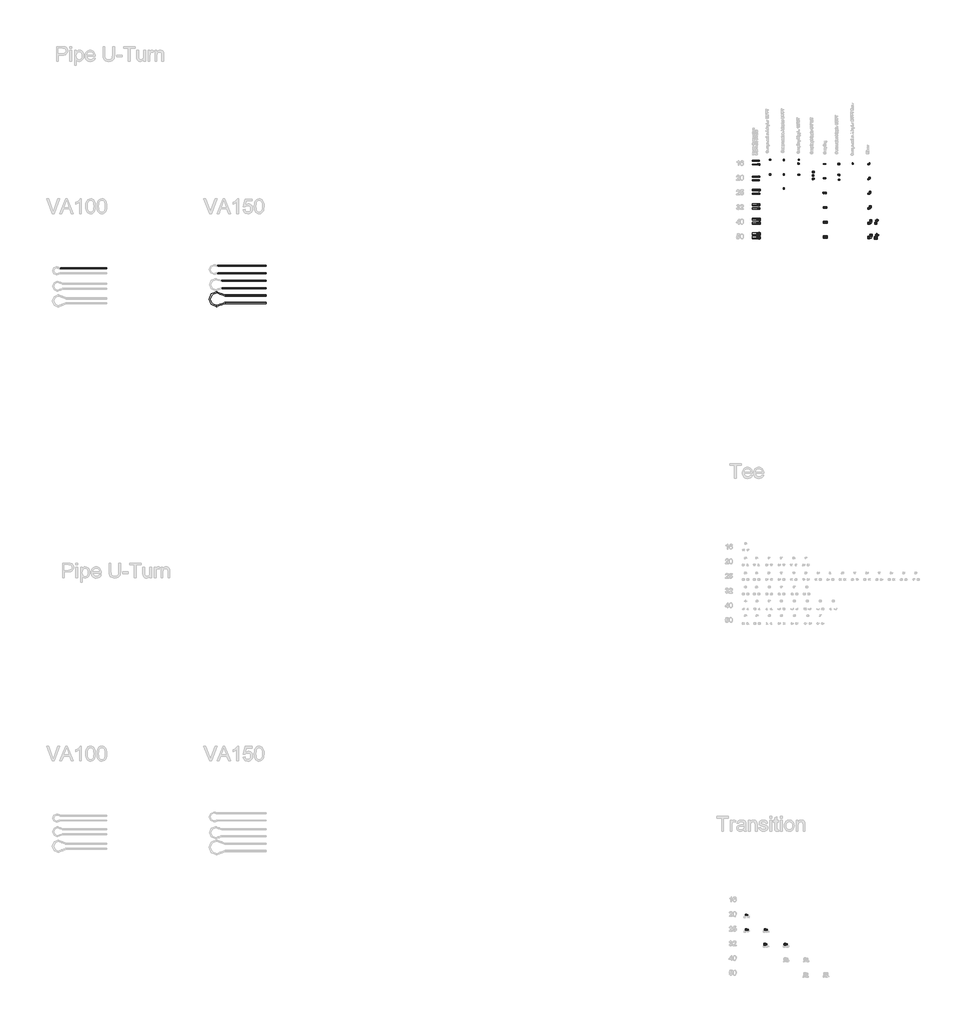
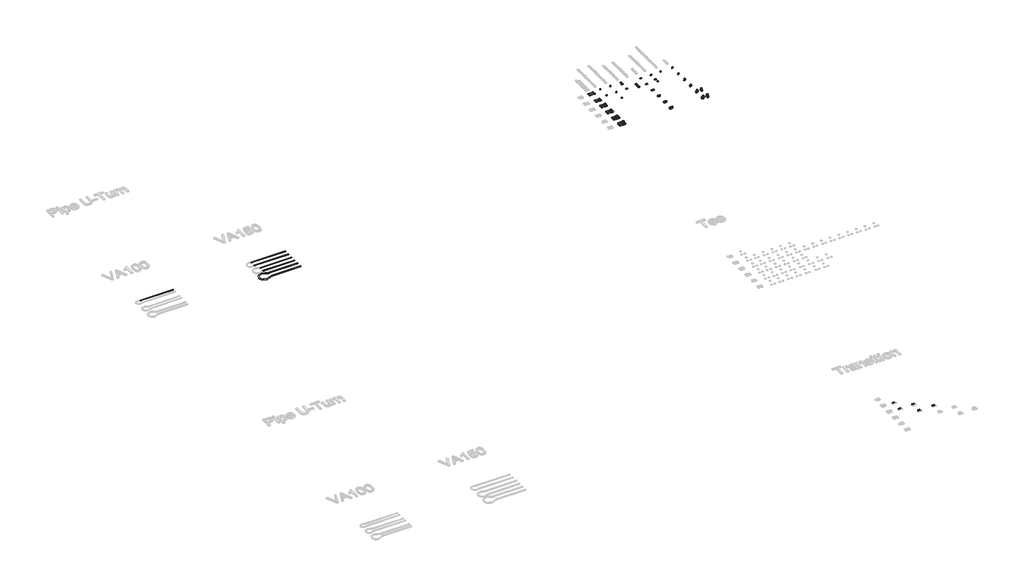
# One storey, part 6 of 26: 53 pipe fittings, 19 pipe segments.
"""IFC4 building model written with IfcOpenShell, lengths in millimetres."""

from ifc_helpers import new_model, si_unit, point, frame, frame_2d, origin, place, context, project, spatial, circle_curve, trimmed, segment, composite_curve, outline, extrude, transform, mapped, element, save
from components import pipe_fitting_8efa302d, pipe_fitting_62024e3c, pipe_fitting_687f7d2e, pipe_fitting_230b2432, pipe_fitting_fd43bd29, pipe_fitting_a4cde8ab, pipe_fitting_2b9a29ce, pipe_fitting_d8af90f1, pipe_fitting_2b53eb9e, pipe_fitting_8ddd92a3, press_connection_with_male_thread_3b10f8af, press_connection_with_male_thread_36fd35f1, press_connection_with_male_thread_b05d8531, press_connection_with_male_thread_6ec6f002, press_connection_with_male_thread_6ada2280, press_connection_with_male_thread_5719c467, press_connection_with_male_thread_fee0158b, press_connection_with_male_thread_74f2f24a, press_connection_with_male_thread_ee4fe83c, press_connection_with_male_thread_8bc9dd04, press_connection_with_male_thread_86ed2f91, press_connection_with_male_thread_667abdb5, press_coupling_33d5531b, press_coupling_d68e36af, press_coupling_43f2d661, press_coupling_09caa11f, press_coupling_af6aac93, press_coupling_7d98de0b, press_elbow_9b0d0ad5, press_elbow_2132446e, press_elbow_a54f810e, press_elbow_edc2ccf9, press_elbow_ccdfa179, press_elbow_f3a7adda, press_elbow_fd1b3582, press_elbow_8b702b1f, press_reducer_d6b01df5, press_reducer_475ca5cc, press_reducer_23957c26, press_reducer_061486a4, press_reducer_fd3fb0bc, ufh_curved_u_turn_771e7ece

model = new_model("IFC4")

# Units and contexts
model_context = context("Model", 3, world=origin())
ifc_project = project(units=[si_unit("LENGTHUNIT", "METRE", prefix="MILLI")], contexts=[model_context])

# Site, building, storey
site = spatial("IfcSite", under=ifc_project)
building = spatial("IfcBuilding", under=site)
storey = spatial("IfcBuildingStorey", under=building, Name="Superpipe UFH", Elevation=0.0)

# Pipe fittings
placement = place(None, origin())
pipe_fitting_shape = pipe_fitting_8efa302d(model_context)
element("IfcPipeFitting", 1, ObjectType="Coupling Nipple 1/2\"MT : Superpipe Coupling Nipple - 1/2\"MT-1/2\"MT", at=placement, inside=storey, context=model_context, shape_type="MappedRepresentation", body=[
    mapped(pipe_fitting_shape, transform((26673.0968487, 32287.6440302, 0.0), x_axis=(1.0, 0.0, 0.0), y_axis=(0.0, 1.0, 0.0), z_axis=(0.0, 0.0, 1.0))),
])
pipe_fitting_2_shape = pipe_fitting_62024e3c(model_context)
element("IfcPipeFitting", 2, ObjectType="Coupling Nipple 3/4\"MT : Superpipe Coupling Nipple - 3/4\"MT-3/4\"MT", at=placement, inside=storey, context=model_context, shape_type="MappedRepresentation", body=[
    mapped(pipe_fitting_2_shape, transform((26966.608744, 31970.4995621, 0.0), x_axis=(1.0, 0.0, 0.0), y_axis=(0.0, 1.0, 0.0), z_axis=(0.0, 0.0, 1.0))),
])
element("IfcPipeFitting", 3, ObjectType="Coupling Nipple 1/2\"MT : Superpipe Coupling Nipple - 16-1/2\"MT", at=placement, inside=storey, context=model_context, shape_type="MappedRepresentation", body=[
    mapped(pipe_fitting_shape, transform((26673.0968487, 32211.3878978, 0.0), x_axis=(1.0, 0.0, 0.0), y_axis=(0.0, 0.0, -1.0), z_axis=(0.0, 1.0, 0.0))),
])
element("IfcPipeFitting", 4, ObjectType="Coupling Nipple 1/2\"MT : Superpipe Coupling Nipple - 20-1/2\"MT", at=placement, inside=storey, context=model_context, shape_type="MappedRepresentation", body=[
    mapped(pipe_fitting_shape, transform((26681.2950323, 31984.1978398, 0.0), x_axis=(1.0, 0.0, 0.0), y_axis=(0.0, 1.0, 0.0), z_axis=(0.0, 0.0, 1.0))),
])
element("IfcPipeFitting", 5, ObjectType="Coupling Nipple 3/4\"MT : Superpipe Coupling Nipple - 16-3/4\"MT", at=placement, inside=storey, context=model_context, shape_type="MappedRepresentation", body=[
    mapped(pipe_fitting_2_shape, transform((26974.711052, 32039.5133921, 0.0), x_axis=(1.0, 0.0, 0.0), y_axis=(0.0, 1.0, 0.0), z_axis=(0.0, 0.0, 1.0))),
])
element("IfcPipeFitting", 6, ObjectType="Coupling Nipple 3/4\"MT : Superpipe Coupling Nipple - 20-3/4\"MT", at=placement, inside=storey, context=model_context, shape_type="MappedRepresentation", body=[
    mapped(pipe_fitting_2_shape, transform((26973.8036119, 31901.4917886, 0.0), x_axis=(1.0, 0.0, 0.0), y_axis=(0.0, 1.0, 0.0), z_axis=(0.0, 0.0, 1.0))),
])
pipe_fitting_3_shape = pipe_fitting_687f7d2e(model_context)
element("IfcPipeFitting", 7, ObjectType="Conversion Nipple 1/2\"FT : Superpipe Conversion Nipple - 1/2\"MT -1/2\"FT", at=placement, inside=storey, context=model_context, shape_type="MappedRepresentation", body=[
    mapped(pipe_fitting_3_shape, transform((27501.0306015, 31881.747504, 0.0), x_axis=(1.0, 0.0, 0.0), y_axis=(0.0, 1.0, 0.0), z_axis=(0.0, 0.0, 1.0))),
])
element("IfcPipeFitting", 8, ObjectType="Conversion Nipple 1/2\"FT : Superpipe Conversion Nipple - 16-1/2\"FT", at=placement, inside=storey, context=model_context, shape_type="MappedRepresentation", body=[
    mapped(pipe_fitting_3_shape, transform((27500.3086244, 32203.9342523, 0.0), x_axis=(1.0, 0.0, 0.0), y_axis=(0.0, 1.0, 0.0), z_axis=(0.0, 0.0, 1.0))),
])
element("IfcPipeFitting", 9, ObjectType="Conversion Nipple 1/2\"FT : Superpipe Conversion Nipple - 20-1/2\"FT", at=placement, inside=storey, context=model_context, shape_type="MappedRepresentation", body=[
    mapped(pipe_fitting_3_shape, transform((27501.0306015, 31981.747504, 0.0), x_axis=(1.0, 0.0, 0.0), y_axis=(0.0, 1.0, 0.0), z_axis=(0.0, 0.0, 1.0))),
])
pipe_fitting_4_shape = pipe_fitting_230b2432(model_context)
element("IfcPipeFitting", 10, ObjectType="Compression Adapter 1/2\"FT : Superpipe Compression Adapter", at=placement, inside=storey, context=model_context, shape_type="MappedRepresentation", body=[
    mapped(pipe_fitting_4_shape, transform((26072.157662, 31987.6440302, 0.0), x_axis=(1.0, 0.0, 0.0), y_axis=(0.0, 1.0, 0.0), z_axis=(0.0, 0.0, 1.0))),
])
element("IfcPipeFitting", 11, ObjectType="Compression Adapter 1/2\"FT : Superpipe Compression Adapter", at=placement, inside=storey, context=model_context, shape_type="MappedRepresentation", body=[
    mapped(pipe_fitting_4_shape, transform((26648.2950323, 31984.1978398, 0.0), x_axis=(1.0, 0.0, 0.0), y_axis=(0.0, 1.0, 0.0), z_axis=(0.0, 0.0, 1.0))),
])
element("IfcPipeFitting", 12, ObjectType="Compression Adapter 1/2\"FT : Superpipe Compression Adapter", at=placement, inside=storey, context=model_context, shape_type="MappedRepresentation", body=[
    mapped(pipe_fitting_4_shape, transform((27465.7806015, 31981.747504, 0.0), x_axis=(1.0, 0.0, 0.0), y_axis=(0.0, 1.0, 0.0), z_axis=(0.0, 0.0, 1.0))),
])
pipe_fitting_5_shape = pipe_fitting_fd43bd29(model_context)
element("IfcPipeFitting", 13, ObjectType="Compression Adapter 1/2\"FT : Superpipe Compression Adapter", at=placement, inside=storey, context=model_context, shape_type="MappedRepresentation", body=[
    mapped(pipe_fitting_5_shape, transform((26072.157662, 32291.7931007, 0.0), x_axis=(1.0, 0.0, 0.0), y_axis=(0.0, 1.0, 0.0), z_axis=(0.0, 0.0, 1.0))),
])
element("IfcPipeFitting", 14, ObjectType="Compression Adapter 1/2\"FT : Superpipe Compression Adapter", at=placement, inside=storey, context=model_context, shape_type="MappedRepresentation", body=[
    mapped(pipe_fitting_5_shape, transform((26647.0968487, 32211.3878978, 0.0), x_axis=(1.0, 0.0, 0.0), y_axis=(0.0, 0.0, -1.0), z_axis=(0.0, 1.0, 0.0))),
])
element("IfcPipeFitting", 15, ObjectType="Compression Adapter 1/2\"FT : Superpipe Compression Adapter", at=placement, inside=storey, context=model_context, shape_type="MappedRepresentation", body=[
    mapped(pipe_fitting_5_shape, transform((27472.0586244, 32203.9342523, 0.0), x_axis=(1.0, 0.0, 0.0), y_axis=(0.0, 1.0, 0.0), z_axis=(0.0, 0.0, 1.0))),
])
pipe_fitting_6_shape = pipe_fitting_a4cde8ab(model_context)
element("IfcPipeFitting", 16, ObjectType="Compression Adapter 3/4\"FT : Superpipe Compression Adapter", at=placement, inside=storey, context=model_context, shape_type="MappedRepresentation", body=[
    mapped(pipe_fitting_6_shape, transform((26355.157662, 31987.6440302, 0.0), x_axis=(1.0, 0.0, 0.0), y_axis=(0.0, 1.0, 0.0), z_axis=(0.0, 0.0, 1.0))),
])
pipe_fitting_7_shape = pipe_fitting_2b9a29ce(model_context)
element("IfcPipeFitting", 17, ObjectType="Compression Adapter 3/4\"FT : Superpipe Compression Adapter", at=placement, inside=storey, context=model_context, shape_type="MappedRepresentation", body=[
    mapped(pipe_fitting_7_shape, transform((26355.157662, 31706.7931007, 0.0), x_axis=(1.0, 0.0, 0.0), y_axis=(0.0, 1.0, 0.0), z_axis=(0.0, 0.0, 1.0))),
])
pipe_fitting_8_shape = pipe_fitting_d8af90f1(model_context)
element("IfcPipeFitting", 18, ObjectType="Compression Adapter 3/4\"FT : Superpipe Compression Adapter", at=placement, inside=storey, context=model_context, shape_type="MappedRepresentation", body=[
    mapped(pipe_fitting_8_shape, transform((26358.167332, 32287.6440302, 0.0), x_axis=(1.0, 0.0, 0.0), y_axis=(0.0, 1.0, 0.0), z_axis=(0.0, 0.0, 1.0))),
])
pipe_fitting_9_shape = pipe_fitting_2b53eb9e(model_context)
element("IfcPipeFitting", 19, ObjectType="Compression Adapter 3/4\"FT : Superpipe Compression Adapter", at=placement, inside=storey, context=model_context, shape_type="MappedRepresentation", body=[
    mapped(pipe_fitting_9_shape, transform((26970.0278282, 32039.5133921, 0.0), x_axis=(-1.0, 0.0, 0.0), y_axis=(0.0, -1.0, 0.0), z_axis=(0.0, 0.0, 1.0))),
])
pipe_fitting_10_shape = pipe_fitting_8ddd92a3(model_context)
element("IfcPipeFitting", 20, ObjectType="Compression Adapter 3/4\"FT : Superpipe Compression Adapter", at=placement, inside=storey, context=model_context, shape_type="MappedRepresentation", body=[
    mapped(pipe_fitting_10_shape, transform((26969.120388, 31901.4917886, 0.0), x_axis=(-1.0, 0.0, 0.0), y_axis=(0.0, -1.0, 0.0), z_axis=(0.0, 0.0, 1.0))),
])
element("IfcPipeFitting", 21, ObjectType="Compression Adapter Euro : Superpipe Compression Adapter Euro", at=placement, inside=storey, context=model_context, shape_type="MappedRepresentation", body=[
    mapped(pipe_fitting_8_shape, transform((27763.167332, 32210.8509778, 0.0), x_axis=(1.0, 0.0, 0.0), y_axis=(0.0, 1.0, 0.0), z_axis=(0.0, 0.0, 1.0))),
])
press_connection_with_male_thread_shape = press_connection_with_male_thread_3b10f8af(model_context)
element("IfcPipeFitting", 22, ObjectType="Press Connection with Male Thread : Superpipe Press Connection - 50x2” MT", at=placement, inside=storey, context=model_context, shape_type="MappedRepresentation", body=[
    mapped(press_connection_with_male_thread_shape, transform((25808.9138977, 30770.9417971, 0.0), x_axis=(1.0, 0.0, 0.0), y_axis=(0.0, 1.0, 0.0), z_axis=(0.0, 0.0, 1.0))),
])
press_connection_with_male_thread_2_shape = press_connection_with_male_thread_36fd35f1(model_context)
element("IfcPipeFitting", 23, ObjectType="Press Connection with Male Thread : Superpipe Press Connection - 50x1½” MT", at=placement, inside=storey, context=model_context, shape_type="MappedRepresentation", body=[
    mapped(press_connection_with_male_thread_2_shape, transform((25808.9138977, 30695.9417971, 0.0), x_axis=(1.0, 0.0, 0.0), y_axis=(0.0, 1.0, 0.0), z_axis=(0.0, 0.0, 1.0))),
])
press_connection_with_male_thread_3_shape = press_connection_with_male_thread_b05d8531(model_context)
element("IfcPipeFitting", 24, ObjectType="Press Connection with Male Thread : Superpipe Press Connection - 40x1½“ MT", at=placement, inside=storey, context=model_context, shape_type="MappedRepresentation", body=[
    mapped(press_connection_with_male_thread_3_shape, transform((25808.9144624, 31070.9417971, 0.0), x_axis=(1.0, 0.0, 0.0), y_axis=(0.0, 1.0, 0.0), z_axis=(0.0, 0.0, 1.0))),
])
press_connection_with_male_thread_4_shape = press_connection_with_male_thread_6ec6f002(model_context)
element("IfcPipeFitting", 25, ObjectType="Press Connection with Male Thread : Superpipe Press Connection - 40x1¼” MT", at=placement, inside=storey, context=model_context, shape_type="MappedRepresentation", body=[
    mapped(press_connection_with_male_thread_4_shape, transform((25808.9138977, 30995.9417971, 0.0), x_axis=(1.0, 0.0, 0.0), y_axis=(0.0, 1.0, 0.0), z_axis=(0.0, 0.0, 1.0))),
])
press_connection_with_male_thread_5_shape = press_connection_with_male_thread_6ada2280(model_context)
element("IfcPipeFitting", 26, ObjectType="Press Connection with Male Thread : Superpipe Press Connection - 25x¾” MT", at=placement, inside=storey, context=model_context, shape_type="MappedRepresentation", body=[
    mapped(press_connection_with_male_thread_5_shape, transform((25818.4143494, 31595.9417971, 0.0), x_axis=(1.0, 0.0, 0.0), y_axis=(0.0, 1.0, 0.0), z_axis=(0.0, 0.0, 1.0))),
])
press_connection_with_male_thread_6_shape = press_connection_with_male_thread_5719c467(model_context)
element("IfcPipeFitting", 27, ObjectType="Press Connection with Male Thread : Superpipe Press Connection - 20x¾” MT", at=placement, inside=storey, context=model_context, shape_type="MappedRepresentation", body=[
    mapped(press_connection_with_male_thread_6_shape, transform((25824.9149141, 31945.4531545, 0.0), x_axis=(1.0, 0.0, 0.0), y_axis=(0.0, 1.0, 0.0), z_axis=(0.0, 0.0, 1.0))),
])
press_connection_with_male_thread_7_shape = press_connection_with_male_thread_fee0158b(model_context)
element("IfcPipeFitting", 28, ObjectType="Press Connection with Male Thread : Superpipe Press Connection - 20x½” MT", at=placement, inside=storey, context=model_context, shape_type="MappedRepresentation", body=[
    mapped(press_connection_with_male_thread_7_shape, transform((25824.9147985, 31868.671552, 0.0), x_axis=(1.0, 0.0, 0.0), y_axis=(0.0, 1.0, 0.0), z_axis=(0.0, 0.0, 1.0))),
])
press_connection_with_male_thread_8_shape = press_connection_with_male_thread_74f2f24a(model_context)
element("IfcPipeFitting", 29, ObjectType="Press Connection with Male Thread : Superpipe Press Connection - 16x¾” MT", at=placement, inside=storey, context=model_context, shape_type="MappedRepresentation", body=[
    mapped(press_connection_with_male_thread_8_shape, transform((25825.9152529, 32195.9411618, 0.0), x_axis=(0.9999999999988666, -1.5057074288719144e-06, 0.0), y_axis=(1.5057074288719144e-06, 0.9999999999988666, 0.0), z_axis=(0.0, 0.0, 1.0))),
])
press_connection_with_male_thread_9_shape = press_connection_with_male_thread_ee4fe83c(model_context)
element("IfcPipeFitting", 30, ObjectType="Press Connection with Male Thread : Superpipe Press Connection - 16x½” MT", at=placement, inside=storey, context=model_context, shape_type="MappedRepresentation", body=[
    mapped(press_connection_with_male_thread_9_shape, transform((25825.9152529, 32270.9411618, 0.0), x_axis=(0.9999999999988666, -1.5057074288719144e-06, 0.0), y_axis=(1.5057074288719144e-06, 0.9999999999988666, 0.0), z_axis=(0.0, 0.0, 1.0))),
])
press_connection_with_male_thread_10_shape = press_connection_with_male_thread_8bc9dd04(model_context)
element("IfcPipeFitting", 31, ObjectType="Press Connection with Male Thread : Superpipe Press Connection - 25x1” MT", at=placement, inside=storey, context=model_context, shape_type="MappedRepresentation", body=[
    mapped(press_connection_with_male_thread_10_shape, transform((25818.4144624, 31670.9417971, 0.0), x_axis=(1.0, 0.0, 0.0), y_axis=(0.0, 1.0, 0.0), z_axis=(0.0, 0.0, 1.0))),
])
press_connection_with_male_thread_11_shape = press_connection_with_male_thread_86ed2f91(model_context)
element("IfcPipeFitting", 32, ObjectType="Press Connection with Male Thread : Superpipe Press Connection - 32x1¼” MT", at=placement, inside=storey, context=model_context, shape_type="MappedRepresentation", body=[
    mapped(press_connection_with_male_thread_11_shape, transform((25816.9140107, 31370.9417971, 0.0), x_axis=(1.0, 0.0, 0.0), y_axis=(0.0, 1.0, 0.0), z_axis=(0.0, 0.0, 1.0))),
])
press_connection_with_male_thread_12_shape = press_connection_with_male_thread_667abdb5(model_context)
element("IfcPipeFitting", 33, ObjectType="Press Connection with Male Thread : Superpipe Press Connection - 32x1\" MT", at=placement, inside=storey, context=model_context, shape_type="MappedRepresentation", body=[
    mapped(press_connection_with_male_thread_12_shape, transform((25816.9138977, 31295.9417971, 0.0), x_axis=(1.0, 0.0, 0.0), y_axis=(0.0, 1.0, 0.0), z_axis=(0.0, 0.0, 1.0))),
])
press_coupling_shape = press_coupling_33d5531b(model_context)
element("IfcPipeFitting", 34, ObjectType="Press Coupling : Superpipe Press Coupling", at=placement, inside=storey, context=model_context, shape_type="MappedRepresentation", body=[
    mapped(press_coupling_shape, transform((27166.9881459, 31613.9342523, 0.0), x_axis=(1.0, 0.0, 0.0), y_axis=(0.0, 1.0, 0.0), z_axis=(0.0, 0.0, 1.0))),
])
press_coupling_2_shape = press_coupling_d68e36af(model_context)
element("IfcPipeFitting", 35, ObjectType="Press Coupling : Superpipe Press Coupling", at=placement, inside=storey, context=model_context, shape_type="MappedRepresentation", body=[
    mapped(press_coupling_2_shape, transform((27169.9881459, 32203.9342523, 0.0), x_axis=(1.0, 0.0, 0.0), y_axis=(0.0, 1.0, 0.0), z_axis=(0.0, 0.0, 1.0))),
])
press_coupling_3_shape = press_coupling_43f2d661(model_context)
element("IfcPipeFitting", 36, ObjectType="Press Coupling : Superpipe Press Coupling", at=placement, inside=storey, context=model_context, shape_type="MappedRepresentation", body=[
    mapped(press_coupling_3_shape, transform((27169.9881459, 31913.9342523, 0.0), x_axis=(1.0, 0.0, 0.0), y_axis=(0.0, 1.0, 0.0), z_axis=(0.0, 0.0, 1.0))),
])
press_coupling_4_shape = press_coupling_09caa11f(model_context)
element("IfcPipeFitting", 37, ObjectType="Press Coupling : Superpipe Press Coupling", at=placement, inside=storey, context=model_context, shape_type="MappedRepresentation", body=[
    mapped(press_coupling_4_shape, transform((27169.9881459, 31313.9342523, 0.0), x_axis=(1.0, 0.0, 0.0), y_axis=(0.0, 1.0, 0.0), z_axis=(0.0, 0.0, 1.0))),
])
press_coupling_5_shape = press_coupling_af6aac93(model_context)
element("IfcPipeFitting", 38, ObjectType="Press Coupling : Superpipe Press Coupling", at=placement, inside=storey, context=model_context, shape_type="MappedRepresentation", body=[
    mapped(press_coupling_5_shape, transform((27169.9881459, 31013.9342523, 0.0), x_axis=(1.0, 0.0, 0.0), y_axis=(0.0, 1.0, 0.0), z_axis=(0.0, 0.0, 1.0))),
])
press_coupling_6_shape = press_coupling_7d98de0b(model_context)
element("IfcPipeFitting", 39, ObjectType="Press Coupling : Superpipe Press Coupling", at=placement, inside=storey, context=model_context, shape_type="MappedRepresentation", body=[
    mapped(press_coupling_6_shape, transform((27169.9881459, 30713.9342523, 0.0), x_axis=(1.0, 0.0, 0.0), y_axis=(0.0, 1.0, 0.0), z_axis=(0.0, 0.0, 1.0))),
])
press_elbow_shape = press_elbow_9b0d0ad5(model_context)
element("IfcPipeFitting", 40, ObjectType="Press Elbow : Superpipe Press Elbow", at=placement, inside=storey, context=model_context, shape_type="MappedRepresentation", body=[
    mapped(press_elbow_shape, transform((28154.3184197, 30695.9417971, 0.0), x_axis=(1.0, 0.0, 0.0), y_axis=(0.0, 1.0, 0.0), z_axis=(0.0, 0.0, 1.0))),
])
press_elbow_2_shape = press_elbow_2132446e(model_context)
element("IfcPipeFitting", 41, ObjectType="Press Elbow : Superpipe Press Elbow", at=placement, inside=storey, context=model_context, shape_type="MappedRepresentation", body=[
    mapped(press_elbow_2_shape, transform((28131.3184197, 31595.9417971, 0.0), x_axis=(1.0, 0.0, 0.0), y_axis=(0.0, 1.0, 0.0), z_axis=(0.0, 0.0, 1.0))),
])
press_elbow_3_shape = press_elbow_a54f810e(model_context)
element("IfcPipeFitting", 42, ObjectType="Press Elbow : Superpipe Press Elbow", at=placement, inside=storey, context=model_context, shape_type="MappedRepresentation", body=[
    mapped(press_elbow_3_shape, transform((28134.8184197, 31295.9417971, 0.0), x_axis=(1.0, 0.0, 0.0), y_axis=(0.0, 1.0, 0.0), z_axis=(0.0, 0.0, 1.0))),
])
press_elbow_4_shape = press_elbow_edc2ccf9(model_context)
element("IfcPipeFitting", 43, ObjectType="Press Elbow : Superpipe Press Elbow", at=placement, inside=storey, context=model_context, shape_type="MappedRepresentation", body=[
    mapped(press_elbow_4_shape, transform((28149.8184197, 30995.9417971, 0.0), x_axis=(1.0, 0.0, 0.0), y_axis=(0.0, 1.0, 0.0), z_axis=(0.0, 0.0, 1.0))),
])
press_elbow_5_shape = press_elbow_ccdfa179(model_context)
element("IfcPipeFitting", 44, ObjectType="Press Elbow : Superpipe Press Elbow", at=placement, inside=storey, context=model_context, shape_type="MappedRepresentation", body=[
    mapped(press_elbow_5_shape, transform((28248.0026389, 30725.2650292, 0.0), x_axis=(-0.707106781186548, -0.707106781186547, 0.0), y_axis=(0.707106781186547, -0.707106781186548, 0.0), z_axis=(0.0, 0.0, 1.0))),
])
press_elbow_6_shape = press_elbow_f3a7adda(model_context)
element("IfcPipeFitting", 45, ObjectType="Press Elbow : Superpipe Press Elbow", at=placement, inside=storey, context=model_context, shape_type="MappedRepresentation", body=[
    mapped(press_elbow_6_shape, transform((28248.0026389, 31025.2650292, 0.0), x_axis=(-0.7071067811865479, -0.7071067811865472, 0.0), y_axis=(0.7071067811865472, -0.7071067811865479, 0.0), z_axis=(0.0, 0.0, 1.0))),
])
press_elbow_7_shape = press_elbow_fd1b3582(model_context)
element("IfcPipeFitting", 46, ObjectType="Press Elbow : Superpipe Press Elbow", at=placement, inside=storey, context=model_context, shape_type="MappedRepresentation", body=[
    mapped(press_elbow_7_shape, transform((28120.3257473, 32195.9417971, 0.0), x_axis=(1.0, 0.0, 0.0), y_axis=(0.0, 1.0, 0.0), z_axis=(0.0, 0.0, 1.0))),
])
press_elbow_8_shape = press_elbow_8b702b1f(model_context)
element("IfcPipeFitting", 47, ObjectType="Press Elbow : Superpipe Press Elbow", at=placement, inside=storey, context=model_context, shape_type="MappedRepresentation", body=[
    mapped(press_elbow_8_shape, transform((28120.8184197, 31895.9417971, 0.0), x_axis=(1.0, 0.0, 0.0), y_axis=(0.0, 1.0, 0.0), z_axis=(0.0, 0.0, 1.0))),
])
press_reducer_shape = press_reducer_d6b01df5(model_context)
element("IfcPipeFitting", 48, ObjectType="Press Reducer : Superpipe Press Reducer", at=placement, inside=storey, context=model_context, shape_type="MappedRepresentation", body=[
    mapped(press_reducer_shape, transform((26028.5860764, 16538.5663769, 0.0), x_axis=(-0.9999999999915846, -4.102532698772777e-06, 0.0), y_axis=(4.102532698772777e-06, -0.9999999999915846, 0.0), z_axis=(0.0, 0.0, 1.0))),
])
press_reducer_2_shape = press_reducer_475ca5cc(model_context)
element("IfcPipeFitting", 49, ObjectType="Press Reducer : Superpipe Press Reducer", at=placement, inside=storey, context=model_context, shape_type="MappedRepresentation", body=[
    mapped(press_reducer_2_shape, transform((25628.9953211, 16838.5628868, 0.0), x_axis=(-0.9999999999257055, 1.2189704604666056e-05, 0.0), y_axis=(-1.2189704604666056e-05, -0.9999999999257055, 0.0), z_axis=(0.0, 0.0, 1.0))),
])
press_reducer_3_shape = press_reducer_23957c26(model_context)
element("IfcPipeFitting", 50, ObjectType="Press Reducer : Superpipe Press Reducer", at=placement, inside=storey, context=model_context, shape_type="MappedRepresentation", body=[
    mapped(press_reducer_3_shape, transform((25638.4943228, 16538.5638857, 0.0), x_axis=(-0.9999999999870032, -5.098406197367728e-06, 0.0), y_axis=(5.098406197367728e-06, -0.9999999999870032, 0.0), z_axis=(0.0, 0.0, 1.0))),
])
press_reducer_4_shape = press_reducer_061486a4(model_context)
element("IfcPipeFitting", 51, ObjectType="Press Reducer : Superpipe Press Reducer", at=placement, inside=storey, context=model_context, shape_type="MappedRepresentation", body=[
    mapped(press_reducer_4_shape, transform((25957.1407815, 16238.5660701, 0.0), x_axis=(1.0, 0.0, 0.0), y_axis=(0.0, 1.0, 0.0), z_axis=(0.0, 0.0, 1.0))),
])
press_reducer_5_shape = press_reducer_fd3fb0bc(model_context)
element("IfcPipeFitting", 52, ObjectType="Press Reducer : Superpipe Press Reducer", at=placement, inside=storey, context=model_context, shape_type="MappedRepresentation", body=[
    mapped(press_reducer_5_shape, transform((26369.9049955, 16238.5661912, 0.0), x_axis=(0.9999999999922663, 3.932838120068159e-06, 0.0), y_axis=(-3.932838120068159e-06, 0.9999999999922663, 0.0), z_axis=(0.0, 0.0, 1.0))),
])
ufh_curved_u_turn_shape = ufh_curved_u_turn_771e7ece(model_context)
element("IfcPipeFitting", 53, ObjectType="UFH - Curved U-turn : Superpipe 2+ UFH Curved U-turn  - VA150", at=placement, inside=storey, context=model_context, shape_type="MappedRepresentation", body=[
    mapped(ufh_curved_u_turn_shape, transform((14932.01092, 29362.1735842, 0.0), x_axis=(0.0, 1.0, 0.0), y_axis=(-1.0, 0.0, 0.0), z_axis=(0.0, 0.0, 1.0))),
])

# Pipe segments
element("IfcPipeSegment", 54, ObjectType="Superpipe 2+ coil", at=placement, inside=storey, context=model_context, shape_type="SweptSolid", body=[
    extrude(outline(composite_curve([segment(trimmed(circle_curve(frame_2d((0.0, 8.0)), 8.0), [point((-8.0, 8.0))], [point((0.0, 16.0))], False, "CARTESIAN"), True, "CONTINUOUS"), segment(trimmed(circle_curve(frame_2d((0.0, 8.0)), 8.0), [point((0.0, 16.0))], [point((8.0, 8.0))], False, "CARTESIAN"), True, "CONTINUOUS"), segment(trimmed(circle_curve(frame_2d((0.0, 8.0)), 8.0), [point((8.0, 8.0))], [point((0.0, 0.0))], False, "CARTESIAN"), True, "CONTINUOUS"), segment(trimmed(circle_curve(frame_2d((0.0, 8.0)), 8.0), [point((0.0, 0.0))], [point((-8.0, 8.0))], False, "CARTESIAN"), True, "CONTINUOUS")], self_intersect=False)), frame((25850.9152529, 32195.9411241, -8.0), z_axis=(-0.9999999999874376, 5.012484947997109e-06, 0.0), x_axis=(-5.012484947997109e-06, -0.9999999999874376, 0.0)), (0.0, 0.0, 1.0), 134.2606675),
])
element("IfcPipeSegment", 55, ObjectType="Superpipe 2+ coil", at=placement, inside=storey, context=model_context, shape_type="SweptSolid", body=[
    extrude(outline(composite_curve([segment(trimmed(circle_curve(frame_2d((31595.9417971, 0.0)), 12.5), [point((31608.4417971, 0.0))], [point((31595.9417971, -12.5))], False, "CARTESIAN"), True, "CONTINUOUS"), segment(trimmed(circle_curve(frame_2d((31595.9417971, 0.0)), 12.5), [point((31595.9417971, -12.5))], [point((31583.4417971, 0.0))], False, "CARTESIAN"), True, "CONTINUOUS"), segment(trimmed(circle_curve(frame_2d((31595.9417971, 0.0)), 12.5), [point((31583.4417971, 0.0))], [point((31595.9417971, 12.5))], False, "CARTESIAN"), True, "CONTINUOUS"), segment(trimmed(circle_curve(frame_2d((31595.9417971, 0.0)), 12.5), [point((31595.9417971, 12.5))], [point((31608.4417971, 0.0))], False, "CARTESIAN"), True, "CONTINUOUS")], self_intersect=False)), frame((25716.6545854, 0.0, 0.0), z_axis=(1.0, 0.0, 0.0), x_axis=(0.0, 1.0, 0.0)), (0.0, 0.0, 1.0), 134.2597641),
])
element("IfcPipeSegment", 56, ObjectType="Superpipe 2+ coil", at=placement, inside=storey, context=model_context, shape_type="SweptSolid", body=[
    extrude(outline(composite_curve([segment(trimmed(circle_curve(frame_2d((31670.9417971, 0.0)), 12.5), [point((31683.4417971, 0.0))], [point((31670.9417971, -12.5))], False, "CARTESIAN"), True, "CONTINUOUS"), segment(trimmed(circle_curve(frame_2d((31670.9417971, 0.0)), 12.5), [point((31670.9417971, -12.5))], [point((31658.4417971, 0.0))], False, "CARTESIAN"), True, "CONTINUOUS"), segment(trimmed(circle_curve(frame_2d((31670.9417971, 0.0)), 12.5), [point((31658.4417971, 0.0))], [point((31670.9417971, 12.5))], False, "CARTESIAN"), True, "CONTINUOUS"), segment(trimmed(circle_curve(frame_2d((31670.9417971, 0.0)), 12.5), [point((31670.9417971, 12.5))], [point((31683.4417971, 0.0))], False, "CARTESIAN"), True, "CONTINUOUS")], self_intersect=False)), frame((25716.6545854, 0.0, 0.0), z_axis=(1.0, 0.0, 0.0), x_axis=(0.0, 1.0, 0.0)), (0.0, 0.0, 1.0), 134.259877),
])
element("IfcPipeSegment", 57, ObjectType="Superpipe 2+ coil", at=placement, inside=storey, context=model_context, shape_type="SweptSolid", body=[
    extrude(outline(composite_curve([segment(trimmed(circle_curve(frame_2d((31295.9417971, 0.0)), 16.0), [point((31311.9417971, 0.0))], [point((31295.9417971, -16.0))], False, "CARTESIAN"), True, "CONTINUOUS"), segment(trimmed(circle_curve(frame_2d((31295.9417971, 0.0)), 16.0), [point((31295.9417971, -16.0))], [point((31279.9417971, 0.0))], False, "CARTESIAN"), True, "CONTINUOUS"), segment(trimmed(circle_curve(frame_2d((31295.9417971, 0.0)), 16.0), [point((31279.9417971, 0.0))], [point((31295.9417971, 16.0))], False, "CARTESIAN"), True, "CONTINUOUS"), segment(trimmed(circle_curve(frame_2d((31295.9417971, 0.0)), 16.0), [point((31295.9417971, 16.0))], [point((31311.9417971, 0.0))], False, "CARTESIAN"), True, "CONTINUOUS")], self_intersect=False)), frame((25716.6545854, 0.0, 0.0), z_axis=(1.0, 0.0, 0.0), x_axis=(0.0, 1.0, 0.0)), (0.0, 0.0, 1.0), 134.2593124),
])
element("IfcPipeSegment", 58, ObjectType="Superpipe 2+ coil", at=placement, inside=storey, context=model_context, shape_type="SweptSolid", body=[
    extrude(outline(composite_curve([segment(trimmed(circle_curve(frame_2d((31370.9417971, 0.0)), 16.0), [point((31386.9417971, 0.0))], [point((31370.9417971, -16.0))], False, "CARTESIAN"), True, "CONTINUOUS"), segment(trimmed(circle_curve(frame_2d((31370.9417971, 0.0)), 16.0), [point((31370.9417971, -16.0))], [point((31354.9417971, 0.0))], False, "CARTESIAN"), True, "CONTINUOUS"), segment(trimmed(circle_curve(frame_2d((31370.9417971, 0.0)), 16.0), [point((31354.9417971, 0.0))], [point((31370.9417971, 16.0))], False, "CARTESIAN"), True, "CONTINUOUS"), segment(trimmed(circle_curve(frame_2d((31370.9417971, 0.0)), 16.0), [point((31370.9417971, 16.0))], [point((31386.9417971, 0.0))], False, "CARTESIAN"), True, "CONTINUOUS")], self_intersect=False)), frame((25716.6545854, 0.0, 0.0), z_axis=(1.0, 0.0, 0.0), x_axis=(0.0, 1.0, 0.0)), (0.0, 0.0, 1.0), 134.2594253),
])
element("IfcPipeSegment", 59, ObjectType="Superpipe - straight x5m", at=placement, inside=storey, context=model_context, shape_type="SweptSolid", body=[
    extrude(outline(composite_curve([segment(trimmed(circle_curve(frame_2d((30995.9417971, 0.0)), 20.0), [point((31015.9417971, 0.0))], [point((30995.9417971, -20.0))], False, "CARTESIAN"), True, "CONTINUOUS"), segment(trimmed(circle_curve(frame_2d((30995.9417971, 0.0)), 20.0), [point((30995.9417971, -20.0))], [point((30975.9417971, 0.0))], False, "CARTESIAN"), True, "CONTINUOUS"), segment(trimmed(circle_curve(frame_2d((30995.9417971, 0.0)), 20.0), [point((30975.9417971, 0.0))], [point((30995.9417971, 20.0))], False, "CARTESIAN"), True, "CONTINUOUS"), segment(trimmed(circle_curve(frame_2d((30995.9417971, 0.0)), 20.0), [point((30995.9417971, 20.0))], [point((31015.9417971, 0.0))], False, "CARTESIAN"), True, "CONTINUOUS")], self_intersect=False)), frame((25716.6545854, 0.0, 0.0), z_axis=(1.0, 0.0, 0.0), x_axis=(0.0, 1.0, 0.0)), (0.0, 0.0, 1.0), 134.2593124),
])
element("IfcPipeSegment", 60, ObjectType="Superpipe - straight x5m", at=placement, inside=storey, context=model_context, shape_type="SweptSolid", body=[
    extrude(outline(composite_curve([segment(trimmed(circle_curve(frame_2d((31070.9417971, 0.0)), 20.0), [point((31090.9417971, 0.0))], [point((31070.9417971, -20.0))], False, "CARTESIAN"), True, "CONTINUOUS"), segment(trimmed(circle_curve(frame_2d((31070.9417971, 0.0)), 20.0), [point((31070.9417971, -20.0))], [point((31050.9417971, 0.0))], False, "CARTESIAN"), True, "CONTINUOUS"), segment(trimmed(circle_curve(frame_2d((31070.9417971, 0.0)), 20.0), [point((31050.9417971, 0.0))], [point((31070.9417971, 20.0))], False, "CARTESIAN"), True, "CONTINUOUS"), segment(trimmed(circle_curve(frame_2d((31070.9417971, 0.0)), 20.0), [point((31070.9417971, 20.0))], [point((31090.9417971, 0.0))], False, "CARTESIAN"), True, "CONTINUOUS")], self_intersect=False)), frame((25716.6545854, 0.0, 0.0), z_axis=(1.0, 0.0, 0.0), x_axis=(0.0, 1.0, 0.0)), (0.0, 0.0, 1.0), 134.259877),
])
element("IfcPipeSegment", 61, ObjectType="Superpipe - straight x5m", at=placement, inside=storey, context=model_context, shape_type="SweptSolid", body=[
    extrude(outline(composite_curve([segment(trimmed(circle_curve(frame_2d((30695.9417971, 0.0)), 25.0), [point((30720.9417971, 0.0))], [point((30695.9417971, -25.0))], False, "CARTESIAN"), True, "CONTINUOUS"), segment(trimmed(circle_curve(frame_2d((30695.9417971, 0.0)), 25.0), [point((30695.9417971, -25.0))], [point((30670.9417971, 0.0))], False, "CARTESIAN"), True, "CONTINUOUS"), segment(trimmed(circle_curve(frame_2d((30695.9417971, 0.0)), 25.0), [point((30670.9417971, 0.0))], [point((30695.9417971, 25.0))], False, "CARTESIAN"), True, "CONTINUOUS"), segment(trimmed(circle_curve(frame_2d((30695.9417971, 0.0)), 25.0), [point((30695.9417971, 25.0))], [point((30720.9417971, 0.0))], False, "CARTESIAN"), True, "CONTINUOUS")], self_intersect=False)), frame((25716.6545854, 0.0, 0.0), z_axis=(1.0, 0.0, 0.0), x_axis=(0.0, 1.0, 0.0)), (0.0, 0.0, 1.0), 134.2593124),
])
element("IfcPipeSegment", 62, ObjectType="Superpipe 2+ coil", at=placement, inside=storey, context=model_context, shape_type="SweptSolid", body=[
    extrude(outline(composite_curve([segment(trimmed(circle_curve(frame_2d((0.0, 8.0)), 8.0), [point((-8.0, 8.0))], [point((0.0, 16.0))], False, "CARTESIAN"), True, "CONTINUOUS"), segment(trimmed(circle_curve(frame_2d((0.0, 8.0)), 8.0), [point((0.0, 16.0))], [point((8.0, 8.0))], False, "CARTESIAN"), True, "CONTINUOUS"), segment(trimmed(circle_curve(frame_2d((0.0, 8.0)), 8.0), [point((8.0, 8.0))], [point((0.0, 0.0))], False, "CARTESIAN"), True, "CONTINUOUS"), segment(trimmed(circle_curve(frame_2d((0.0, 8.0)), 8.0), [point((0.0, 0.0))], [point((-8.0, 8.0))], False, "CARTESIAN"), True, "CONTINUOUS")], self_intersect=False)), frame((25850.9152529, 32270.9411241, -8.0), z_axis=(-0.9999999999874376, 5.01247991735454e-06, 0.0), x_axis=(-5.01247991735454e-06, -0.9999999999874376, 0.0)), (0.0, 0.0, 1.0), 134.2606675),
])
element("IfcPipeSegment", 63, ObjectType="Superpipe - straight x5m", at=placement, inside=storey, context=model_context, shape_type="SweptSolid", body=[
    extrude(outline(composite_curve([segment(trimmed(circle_curve(frame_2d((30770.9417971, 0.0)), 25.0), [point((30795.9417971, 0.0))], [point((30770.9417971, -25.0))], False, "CARTESIAN"), True, "CONTINUOUS"), segment(trimmed(circle_curve(frame_2d((30770.9417971, 0.0)), 25.0), [point((30770.9417971, -25.0))], [point((30745.9417971, 0.0))], False, "CARTESIAN"), True, "CONTINUOUS"), segment(trimmed(circle_curve(frame_2d((30770.9417971, 0.0)), 25.0), [point((30745.9417971, 0.0))], [point((30770.9417971, 25.0))], False, "CARTESIAN"), True, "CONTINUOUS"), segment(trimmed(circle_curve(frame_2d((30770.9417971, 0.0)), 25.0), [point((30770.9417971, 25.0))], [point((30795.9417971, 0.0))], False, "CARTESIAN"), True, "CONTINUOUS")], self_intersect=False)), frame((25716.6545854, 0.0, 0.0), z_axis=(1.0, 0.0, 0.0), x_axis=(0.0, 1.0, 0.0)), (0.0, 0.0, 1.0), 134.2593124),
])
element("IfcPipeSegment", 64, ObjectType="Superpipe 2+ coil", at=placement, inside=storey, context=model_context, shape_type="SweptSolid", body=[
    extrude(outline(composite_curve([segment(trimmed(circle_curve(frame_2d((31868.671552, 0.0)), 10.0), [point((31878.671552, 0.0))], [point((31868.671552, -10.0))], False, "CARTESIAN"), True, "CONTINUOUS"), segment(trimmed(circle_curve(frame_2d((31868.671552, 0.0)), 10.0), [point((31868.671552, -10.0))], [point((31858.671552, 0.0))], False, "CARTESIAN"), True, "CONTINUOUS"), segment(trimmed(circle_curve(frame_2d((31868.671552, 0.0)), 10.0), [point((31858.671552, 0.0))], [point((31868.671552, 10.0))], False, "CARTESIAN"), True, "CONTINUOUS"), segment(trimmed(circle_curve(frame_2d((31868.671552, 0.0)), 10.0), [point((31868.671552, 10.0))], [point((31878.671552, 0.0))], False, "CARTESIAN"), True, "CONTINUOUS")], self_intersect=False)), frame((25716.6545854, 0.0, 0.0), z_axis=(1.0, 0.0, 0.0), x_axis=(0.0, 1.0, 0.0)), (0.0, 0.0, 1.0), 134.2602131),
])
element("IfcPipeSegment", 65, ObjectType="Superpipe 2+ coil", at=placement, inside=storey, context=model_context, shape_type="SweptSolid", body=[
    extrude(outline(composite_curve([segment(trimmed(circle_curve(frame_2d((31945.4531545, 0.0)), 10.0), [point((31955.4531545, 0.0))], [point((31945.4531545, -10.0))], False, "CARTESIAN"), True, "CONTINUOUS"), segment(trimmed(circle_curve(frame_2d((31945.4531545, 0.0)), 10.0), [point((31945.4531545, -10.0))], [point((31935.4531545, 0.0))], False, "CARTESIAN"), True, "CONTINUOUS"), segment(trimmed(circle_curve(frame_2d((31945.4531545, 0.0)), 10.0), [point((31935.4531545, 0.0))], [point((31945.4531545, 10.0))], False, "CARTESIAN"), True, "CONTINUOUS"), segment(trimmed(circle_curve(frame_2d((31945.4531545, 0.0)), 10.0), [point((31945.4531545, 10.0))], [point((31955.4531545, 0.0))], False, "CARTESIAN"), True, "CONTINUOUS")], self_intersect=False)), frame((25716.6545854, 0.0, 0.0), z_axis=(1.0, 0.0, 0.0), x_axis=(0.0, 1.0, 0.0)), (0.0, 0.0, 1.0), 134.2603287),
])
element("IfcPipeSegment", 66, ObjectType="Superpipe 2+ coil", at=placement, inside=storey, context=model_context, shape_type="SweptSolid", body=[
    extrude(outline(composite_curve([segment(trimmed(circle_curve(frame_2d((30069.743814, 0.0)), 8.0), [point((30061.743814, 0.0))], [point((30069.743814, 8.0))], False, "CARTESIAN"), True, "CONTINUOUS"), segment(trimmed(circle_curve(frame_2d((30069.743814, 0.0)), 8.0), [point((30069.743814, 8.0))], [point((30077.743814, 0.0))], False, "CARTESIAN"), True, "CONTINUOUS"), segment(trimmed(circle_curve(frame_2d((30069.743814, 0.0)), 8.0), [point((30077.743814, 0.0))], [point((30069.743814, -8.0))], False, "CARTESIAN"), True, "CONTINUOUS"), segment(trimmed(circle_curve(frame_2d((30069.743814, 0.0)), 8.0), [point((30069.743814, -8.0))], [point((30061.743814, 0.0))], False, "CARTESIAN"), True, "CONTINUOUS")], self_intersect=False)), frame((11556.1170006, 0.0, 0.0), z_axis=(1.0, 0.0, 0.0), x_axis=(0.0, 1.0, 0.0)), (0.0, 0.0, 1.0), 947.3802123),
])
element("IfcPipeSegment", 67, ObjectType="Superpipe 2+ coil", at=placement, inside=storey, context=model_context, shape_type="SweptSolid", body=[
    extrude(outline(composite_curve([segment(trimmed(circle_curve(frame_2d((29969.743814, 0.0)), 8.0), [point((29961.743814, 0.0))], [point((29969.743814, 8.0))], False, "CARTESIAN"), True, "CONTINUOUS"), segment(trimmed(circle_curve(frame_2d((29969.743814, 0.0)), 8.0), [point((29969.743814, 8.0))], [point((29977.743814, 0.0))], False, "CARTESIAN"), True, "CONTINUOUS"), segment(trimmed(circle_curve(frame_2d((29969.743814, 0.0)), 8.0), [point((29977.743814, 0.0))], [point((29969.743814, -8.0))], False, "CARTESIAN"), True, "CONTINUOUS"), segment(trimmed(circle_curve(frame_2d((29969.743814, 0.0)), 8.0), [point((29969.743814, -8.0))], [point((29961.743814, 0.0))], False, "CARTESIAN"), True, "CONTINUOUS")], self_intersect=False)), frame((14772.2598237, 0.0, 0.0), z_axis=(1.0, 0.0, 0.0), x_axis=(0.0, 1.0, 0.0)), (0.0, 0.0, 1.0), 991.2373892),
])
element("IfcPipeSegment", 68, ObjectType="Superpipe 2+ coil", at=placement, inside=storey, context=model_context, shape_type="SweptSolid", body=[
    extrude(outline(composite_curve([segment(trimmed(circle_curve(frame_2d((30119.743814, 0.0)), 8.0), [point((30111.743814, 0.0))], [point((30119.743814, 8.0))], False, "CARTESIAN"), True, "CONTINUOUS"), segment(trimmed(circle_curve(frame_2d((30119.743814, 0.0)), 8.0), [point((30119.743814, 8.0))], [point((30127.743814, 0.0))], False, "CARTESIAN"), True, "CONTINUOUS"), segment(trimmed(circle_curve(frame_2d((30119.743814, 0.0)), 8.0), [point((30127.743814, 0.0))], [point((30119.743814, -8.0))], False, "CARTESIAN"), True, "CONTINUOUS"), segment(trimmed(circle_curve(frame_2d((30119.743814, 0.0)), 8.0), [point((30119.743814, -8.0))], [point((30111.743814, 0.0))], False, "CARTESIAN"), True, "CONTINUOUS")], self_intersect=False)), frame((14772.2598237, 0.0, 0.0), z_axis=(1.0, 0.0, 0.0), x_axis=(0.0, 1.0, 0.0)), (0.0, 0.0, 1.0), 991.2373892),
])
element("IfcPipeSegment", 69, ObjectType="Superpipe 2+ coil", at=placement, inside=storey, context=model_context, shape_type="SweptSolid", body=[
    extrude(outline(composite_curve([segment(trimmed(circle_curve(frame_2d((29661.919181, 0.0)), 10.0), [point((29651.919181, 0.0))], [point((29661.919181, 10.0))], False, "CARTESIAN"), True, "CONTINUOUS"), segment(trimmed(circle_curve(frame_2d((29661.919181, 0.0)), 10.0), [point((29661.919181, 10.0))], [point((29671.919181, 0.0))], False, "CARTESIAN"), True, "CONTINUOUS"), segment(trimmed(circle_curve(frame_2d((29661.919181, 0.0)), 10.0), [point((29671.919181, 0.0))], [point((29661.919181, -10.0))], False, "CARTESIAN"), True, "CONTINUOUS"), segment(trimmed(circle_curve(frame_2d((29661.919181, 0.0)), 10.0), [point((29661.919181, -10.0))], [point((29651.919181, 0.0))], False, "CARTESIAN"), True, "CONTINUOUS")], self_intersect=False)), frame((14852.7350554, 0.0, 0.0), z_axis=(1.0, 0.0, 0.0), x_axis=(0.0, 1.0, 0.0)), (0.0, 0.0, 1.0), 910.7621575),
])
element("IfcPipeSegment", 70, ObjectType="Superpipe 2+ coil", at=placement, inside=storey, context=model_context, shape_type="SweptSolid", body=[
    extrude(outline(composite_curve([segment(trimmed(circle_curve(frame_2d((29811.919181, 0.0)), 10.0), [point((29801.919181, 0.0))], [point((29811.919181, 10.0))], False, "CARTESIAN"), True, "CONTINUOUS"), segment(trimmed(circle_curve(frame_2d((29811.919181, 0.0)), 10.0), [point((29811.919181, 10.0))], [point((29821.919181, 0.0))], False, "CARTESIAN"), True, "CONTINUOUS"), segment(trimmed(circle_curve(frame_2d((29811.919181, 0.0)), 10.0), [point((29821.919181, 0.0))], [point((29811.919181, -10.0))], False, "CARTESIAN"), True, "CONTINUOUS"), segment(trimmed(circle_curve(frame_2d((29811.919181, 0.0)), 10.0), [point((29811.919181, -10.0))], [point((29801.919181, 0.0))], False, "CARTESIAN"), True, "CONTINUOUS")], self_intersect=False)), frame((14852.7350554, 0.0, 0.0), z_axis=(1.0, 0.0, 0.0), x_axis=(0.0, 1.0, 0.0)), (0.0, 0.0, 1.0), 910.7621575),
])
element("IfcPipeSegment", 71, ObjectType="Superpipe 2+ coil", at=placement, inside=storey, context=model_context, shape_type="SweptSolid", body=[
    extrude(outline(composite_curve([segment(trimmed(circle_curve(frame_2d((29362.1735842, 0.0)), 12.5), [point((29349.6735842, 0.0))], [point((29362.1735842, 12.5))], False, "CARTESIAN"), True, "CONTINUOUS"), segment(trimmed(circle_curve(frame_2d((29362.1735842, 0.0)), 12.5), [point((29362.1735842, 12.5))], [point((29374.6735842, 0.0))], False, "CARTESIAN"), True, "CONTINUOUS"), segment(trimmed(circle_curve(frame_2d((29362.1735842, 0.0)), 12.5), [point((29374.6735842, 0.0))], [point((29362.1735842, -12.5))], False, "CARTESIAN"), True, "CONTINUOUS"), segment(trimmed(circle_curve(frame_2d((29362.1735842, 0.0)), 12.5), [point((29362.1735842, -12.5))], [point((29349.6735842, 0.0))], False, "CARTESIAN"), True, "CONTINUOUS")], self_intersect=False)), frame((14932.01092, 0.0, 0.0), z_axis=(1.0, 0.0, 0.0), x_axis=(0.0, 1.0, 0.0)), (0.0, 0.0, 1.0), 831.4862928),
])
element("IfcPipeSegment", 72, ObjectType="Superpipe 2+ coil", at=placement, inside=storey, context=model_context, shape_type="SweptSolid", body=[
    extrude(outline(composite_curve([segment(trimmed(circle_curve(frame_2d((29512.1735842, 0.0)), 12.5), [point((29499.6735842, 0.0))], [point((29512.1735842, 12.5))], False, "CARTESIAN"), True, "CONTINUOUS"), segment(trimmed(circle_curve(frame_2d((29512.1735842, 0.0)), 12.5), [point((29512.1735842, 12.5))], [point((29524.6735842, 0.0))], False, "CARTESIAN"), True, "CONTINUOUS"), segment(trimmed(circle_curve(frame_2d((29512.1735842, 0.0)), 12.5), [point((29524.6735842, 0.0))], [point((29512.1735842, -12.5))], False, "CARTESIAN"), True, "CONTINUOUS"), segment(trimmed(circle_curve(frame_2d((29512.1735842, 0.0)), 12.5), [point((29512.1735842, -12.5))], [point((29499.6735842, 0.0))], False, "CARTESIAN"), True, "CONTINUOUS")], self_intersect=False)), frame((14932.01092, 0.0, 0.0), z_axis=(1.0, 0.0, 0.0), x_axis=(0.0, 1.0, 0.0)), (0.0, 0.0, 1.0), 831.4862928),
])

save(model, "model.ifc")
